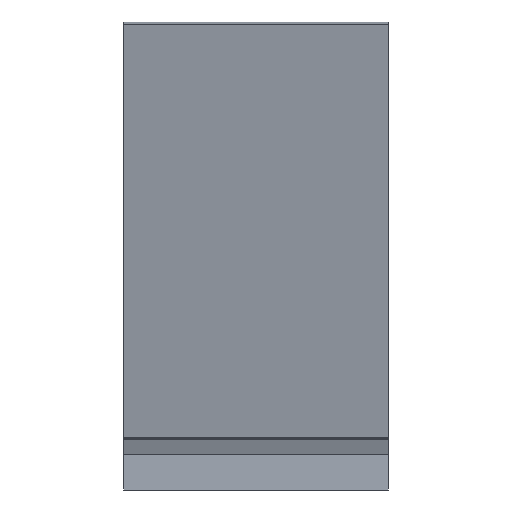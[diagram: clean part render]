
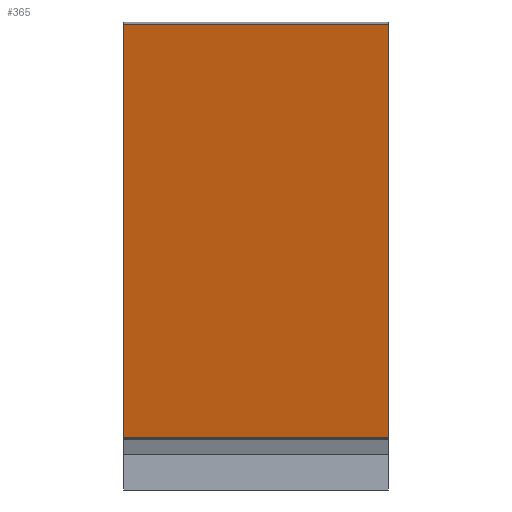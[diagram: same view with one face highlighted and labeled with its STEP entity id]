
A CAD part, front view. The second image highlights one B-rep face of the part: STEP entity #365.
In plain terms, the highlighted planar face has unit normal (0, -0.981, -0.195).
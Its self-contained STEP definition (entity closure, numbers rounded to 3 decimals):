
#72 = PLANE('',#73);
#73 = AXIS2_PLACEMENT_3D('',#74,#75,#76);
#74 = CARTESIAN_POINT('',(19.,-7.302,-118.848));
#75 = DIRECTION('',(-1.,0.,-0.));
#76 = DIRECTION('',(0.,0.,1.));
#126 = PLANE('',#127);
#127 = AXIS2_PLACEMENT_3D('',#128,#129,#130);
#128 = CARTESIAN_POINT('',(-27.,-7.302,-118.848));
#129 = DIRECTION('',(-1.,0.,-0.));
#130 = DIRECTION('',(0.,0.,1.));
#257 = PLANE('',#258);
#258 = AXIS2_PLACEMENT_3D('',#259,#260,#261);
#259 = CARTESIAN_POINT('',(-27.,-14.5,-78.));
#260 = DIRECTION('',(-0.,-0.195,0.981));
#261 = DIRECTION('',(0.,0.981,0.195));
#295 = VERTEX_POINT('',#296);
#296 = CARTESIAN_POINT('',(19.,-16.266,-78.351));
#317 = EDGE_CURVE('',#318,#295,#320,.T.);
#318 = VERTEX_POINT('',#319);
#319 = CARTESIAN_POINT('',(-27.,-16.266,-78.351));
#320 = SURFACE_CURVE('',#321,(#325,#332),.PCURVE_S1.);
#321 = LINE('',#322,#323);
#322 = CARTESIAN_POINT('',(-27.,-16.266,-78.351));
#323 = VECTOR('',#324,1.);
#324 = DIRECTION('',(1.,-0.,-0.));
#325 = PCURVE('',#257,#326);
#326 = DEFINITIONAL_REPRESENTATION('',(#327),#331);
#327 = LINE('',#328,#329);
#328 = CARTESIAN_POINT('',(-1.8,0.));
#329 = VECTOR('',#330,1.);
#330 = DIRECTION('',(-0.,-1.));
#331 = ( GEOMETRIC_REPRESENTATION_CONTEXT(2) 
PARAMETRIC_REPRESENTATION_CONTEXT() REPRESENTATION_CONTEXT('2D SPACE',''
  ) );
#332 = PCURVE('',#333,#338);
#333 = PLANE('',#334);
#334 = AXIS2_PLACEMENT_3D('',#335,#336,#337);
#335 = CARTESIAN_POINT('',(-27.,-16.266,-78.351));
#336 = DIRECTION('',(-0.,-0.981,-0.195));
#337 = DIRECTION('',(-0.,-0.195,0.981));
#338 = DEFINITIONAL_REPRESENTATION('',(#339),#343);
#339 = LINE('',#340,#341);
#340 = CARTESIAN_POINT('',(-0.,-0.));
#341 = VECTOR('',#342,1.);
#342 = DIRECTION('',(-0.,-1.));
#343 = ( GEOMETRIC_REPRESENTATION_CONTEXT(2) 
PARAMETRIC_REPRESENTATION_CONTEXT() REPRESENTATION_CONTEXT('2D SPACE',''
  ) );
#365 = ADVANCED_FACE('',(#366),#333,.T.);
#366 = FACE_BOUND('',#367,.F.);
#367 = EDGE_LOOP('',(#368,#369,#392,#420));
#368 = ORIENTED_EDGE('',*,*,#317,.T.);
#369 = ORIENTED_EDGE('',*,*,#370,.T.);
#370 = EDGE_CURVE('',#295,#371,#373,.T.);
#371 = VERTEX_POINT('',#372);
#372 = CARTESIAN_POINT('',(19.,-1.966,-150.351));
#373 = SURFACE_CURVE('',#374,(#378,#385),.PCURVE_S1.);
#374 = LINE('',#375,#376);
#375 = CARTESIAN_POINT('',(19.,-16.266,-78.351));
#376 = VECTOR('',#377,1.);
#377 = DIRECTION('',(0.,0.195,-0.981));
#378 = PCURVE('',#333,#379);
#379 = DEFINITIONAL_REPRESENTATION('',(#380),#384);
#380 = LINE('',#381,#382);
#381 = CARTESIAN_POINT('',(-0.,-46.));
#382 = VECTOR('',#383,1.);
#383 = DIRECTION('',(-1.,0.));
#384 = ( GEOMETRIC_REPRESENTATION_CONTEXT(2) 
PARAMETRIC_REPRESENTATION_CONTEXT() REPRESENTATION_CONTEXT('2D SPACE',''
  ) );
#385 = PCURVE('',#72,#386);
#386 = DEFINITIONAL_REPRESENTATION('',(#387),#391);
#387 = LINE('',#388,#389);
#388 = CARTESIAN_POINT('',(40.497,-8.963));
#389 = VECTOR('',#390,1.);
#390 = DIRECTION('',(-0.981,0.195));
#391 = ( GEOMETRIC_REPRESENTATION_CONTEXT(2) 
PARAMETRIC_REPRESENTATION_CONTEXT() REPRESENTATION_CONTEXT('2D SPACE',''
  ) );
#392 = ORIENTED_EDGE('',*,*,#393,.F.);
#393 = EDGE_CURVE('',#394,#371,#396,.T.);
#394 = VERTEX_POINT('',#395);
#395 = CARTESIAN_POINT('',(-27.,-1.966,-150.351));
#396 = SURFACE_CURVE('',#397,(#401,#408),.PCURVE_S1.);
#397 = LINE('',#398,#399);
#398 = CARTESIAN_POINT('',(-27.,-1.966,-150.351));
#399 = VECTOR('',#400,1.);
#400 = DIRECTION('',(1.,-0.,-0.));
#401 = PCURVE('',#333,#402);
#402 = DEFINITIONAL_REPRESENTATION('',(#403),#407);
#403 = LINE('',#404,#405);
#404 = CARTESIAN_POINT('',(-73.406,0.));
#405 = VECTOR('',#406,1.);
#406 = DIRECTION('',(-0.,-1.));
#407 = ( GEOMETRIC_REPRESENTATION_CONTEXT(2) 
PARAMETRIC_REPRESENTATION_CONTEXT() REPRESENTATION_CONTEXT('2D SPACE',''
  ) );
#408 = PCURVE('',#409,#414);
#409 = PLANE('',#410);
#410 = AXIS2_PLACEMENT_3D('',#411,#412,#413);
#411 = CARTESIAN_POINT('',(-27.,-1.966,-150.351));
#412 = DIRECTION('',(-0.,-0.971,-0.24));
#413 = DIRECTION('',(-0.,-0.24,0.971));
#414 = DEFINITIONAL_REPRESENTATION('',(#415),#419);
#415 = LINE('',#416,#417);
#416 = CARTESIAN_POINT('',(-0.,-0.));
#417 = VECTOR('',#418,1.);
#418 = DIRECTION('',(-0.,-1.));
#419 = ( GEOMETRIC_REPRESENTATION_CONTEXT(2) 
PARAMETRIC_REPRESENTATION_CONTEXT() REPRESENTATION_CONTEXT('2D SPACE',''
  ) );
#420 = ORIENTED_EDGE('',*,*,#421,.F.);
#421 = EDGE_CURVE('',#318,#394,#422,.T.);
#422 = SURFACE_CURVE('',#423,(#427,#434),.PCURVE_S1.);
#423 = LINE('',#424,#425);
#424 = CARTESIAN_POINT('',(-27.,-16.266,-78.351));
#425 = VECTOR('',#426,1.);
#426 = DIRECTION('',(0.,0.195,-0.981));
#427 = PCURVE('',#333,#428);
#428 = DEFINITIONAL_REPRESENTATION('',(#429),#433);
#429 = LINE('',#430,#431);
#430 = CARTESIAN_POINT('',(-0.,-0.));
#431 = VECTOR('',#432,1.);
#432 = DIRECTION('',(-1.,0.));
#433 = ( GEOMETRIC_REPRESENTATION_CONTEXT(2) 
PARAMETRIC_REPRESENTATION_CONTEXT() REPRESENTATION_CONTEXT('2D SPACE',''
  ) );
#434 = PCURVE('',#126,#435);
#435 = DEFINITIONAL_REPRESENTATION('',(#436),#440);
#436 = LINE('',#437,#438);
#437 = CARTESIAN_POINT('',(40.497,-8.963));
#438 = VECTOR('',#439,1.);
#439 = DIRECTION('',(-0.981,0.195));
#440 = ( GEOMETRIC_REPRESENTATION_CONTEXT(2) 
PARAMETRIC_REPRESENTATION_CONTEXT() REPRESENTATION_CONTEXT('2D SPACE',''
  ) );
